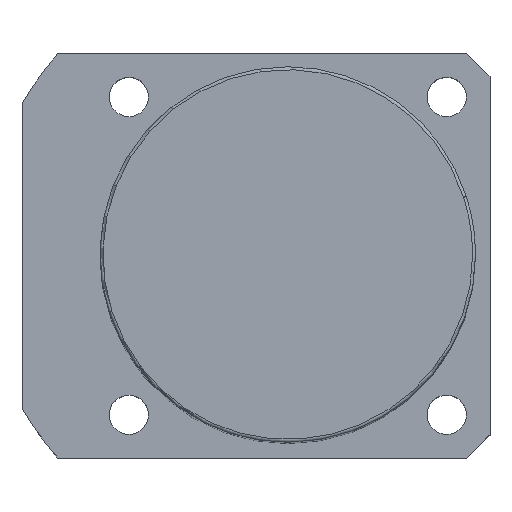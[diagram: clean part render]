
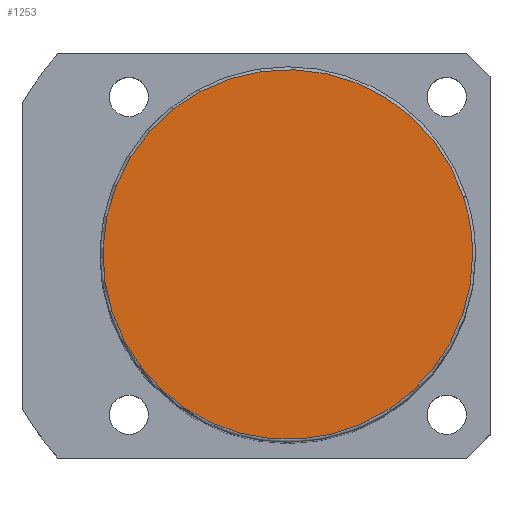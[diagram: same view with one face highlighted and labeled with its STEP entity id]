
A CAD part, top view. The second image highlights one B-rep face of the part: STEP entity #1253.
In plain terms, the highlighted planar face has unit normal (0, 0, 1).
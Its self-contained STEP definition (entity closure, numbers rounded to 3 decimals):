
#1219=CARTESIAN_POINT('',(32.0,0.0,146.0));
#1220=VERTEX_POINT('',#1219);
#1221=CARTESIAN_POINT('',(30.434,9.889,146.0));
#1222=VERTEX_POINT('',#1221);
#1223=CARTESIAN_POINT('',(0.0,0.0,146.0));
#1224=DIRECTION('',(0.0,0.0,1.0));
#1225=DIRECTION('',(1.0,0.0,0.0));
#1226=AXIS2_PLACEMENT_3D('',#1223,#1224,#1225);
#1227=CIRCLE('',#1226,32.0);
#1228=EDGE_CURVE('no 1812',#1220,#1222,#1227,.T.);
#1229=ORIENTED_EDGE('',*,*,#1228,.T.);
#1230=CARTESIAN_POINT('',(-30.434,-9.889,146.0));
#1231=VERTEX_POINT('',#1230);
#1232=CARTESIAN_POINT('',(0.0,0.0,146.0));
#1233=DIRECTION('',(0.0,0.0,1.0));
#1234=DIRECTION('',(1.0,0.0,0.0));
#1235=AXIS2_PLACEMENT_3D('',#1232,#1233,#1234);
#1236=CIRCLE('',#1235,32.0);
#1237=EDGE_CURVE('no 1818',#1222,#1231,#1236,.T.);
#1238=ORIENTED_EDGE('',*,*,#1237,.T.);
#1239=CARTESIAN_POINT('',(0.0,0.0,146.0));
#1240=DIRECTION('',(0.0,0.0,1.0));
#1241=DIRECTION('',(1.0,0.0,0.0));
#1242=AXIS2_PLACEMENT_3D('',#1239,#1240,#1241);
#1243=CIRCLE('',#1242,32.0);
#1244=EDGE_CURVE('no 1822',#1231,#1220,#1243,.T.);
#1245=ORIENTED_EDGE('',*,*,#1244,.T.);
#1246=EDGE_LOOP('',(#1229,#1238,#1245));
#1247=FACE_OUTER_BOUND('',#1246,.T.);
#1248=CARTESIAN_POINT('',(0.0,0.0,146.0));
#1249=DIRECTION('',(0.0,0.0,1.0));
#1250=DIRECTION('',(1.0,0.0,0.0));
#1251=AXIS2_PLACEMENT_3D('',#1248,#1249,#1250);
#1252=PLANE('',#1251);
#1253=ADVANCED_FACE('no 1803',(#1247),#1252,.T.);
